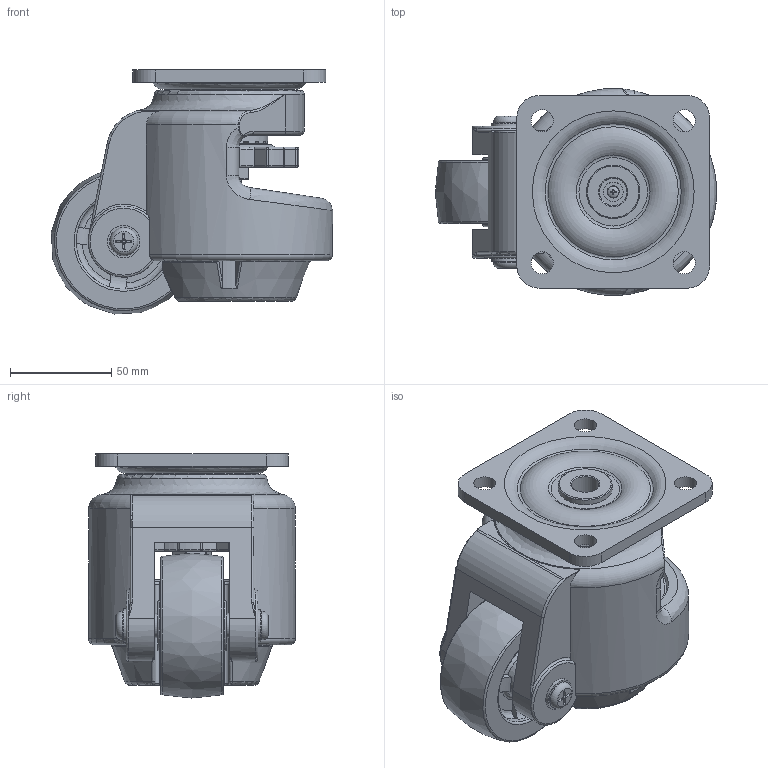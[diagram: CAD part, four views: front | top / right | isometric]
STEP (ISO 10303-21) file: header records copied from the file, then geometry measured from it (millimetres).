
FILE_DESCRIPTION((' '),'2;1');
FILE_NAME('Y:\00. A standard brand\06. 3D Modeling\외부전송용_STEP\CARRYMASTER(STEP)\AC-1000FP.stp.stp','2011-11-22T13:40:54',(' '),(' '),' ','ACIS',' ');
FILE_SCHEMA(('CONFIG_CONTROL_DESIGN'));
Length unit declared in the file: millimetre
Products named in the file (1): Y:\00. A standard brand\06. 3D Modeling\외부전송용_STEP\CARRYMASTER(STEP)\AC-1000FP.stp.stp
Bounding box: 138.69 x 102 x 120.29 mm (x, y, z)
Volume: 652657.4 mm3; surface area: 149592.5 mm2
Topology: 4 solids, 7 shells, 785 faces, 1998 edges, 1191 vertices
Faces by surface type: plane 278, cylinder 225, bspline 117, sphere 78, torus 74, cone 13
Full cylindrical faces by diameter (mm): 2.75 x1, 8 x1, 9 x1, 9.7 x2, 12 x2, 12.2 x1, 13 x2, 13.5 x1, 14 x2, 16 x1, 16.5 x1, 20 x2, 21 x1, 25 x3, 26.5 x1, 30 x1, 38 x1, 40 x1, 40.14 x1, 41.34 x1, 41.5 x1, 47 x2
Entity records: 30321 total; most frequent: CARTESIAN_POINT 12486, DIRECTION 3796, ORIENTED_EDGE 3588, EDGE_CURVE 1794, AXIS2_PLACEMENT_3D 1536, VERTEX_POINT 1098, EDGE_LOOP 936, CIRCLE 830
